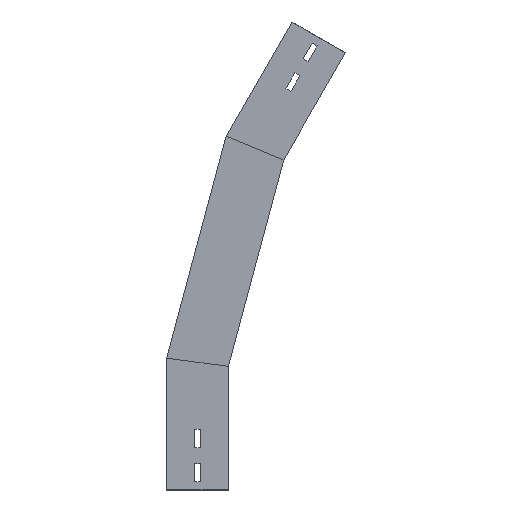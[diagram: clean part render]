
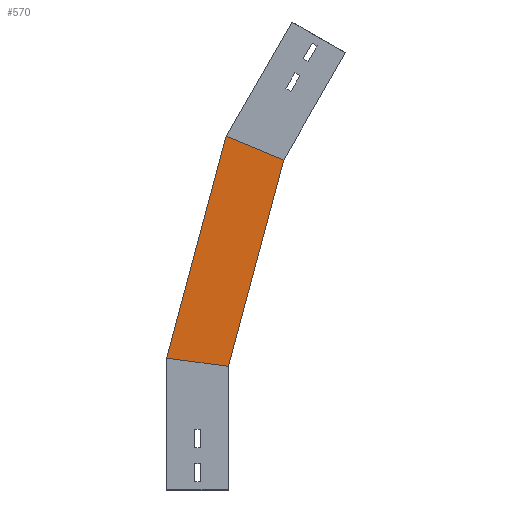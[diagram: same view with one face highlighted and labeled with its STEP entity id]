
A CAD part, left-side view. The second image highlights one B-rep face of the part: STEP entity #570.
In plain terms, the highlighted planar face has unit normal (-1, 0, 0) as drawn and (1, 0, 0) by its records, which use the part's own axes.
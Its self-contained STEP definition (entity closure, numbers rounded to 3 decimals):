
#53 = VERTEX_POINT ( 'NONE', #1097 ) ;
#66 = ORIENTED_EDGE ( 'NONE', *, *, #120, .T. ) ;
#71 = DIRECTION ( 'NONE',  ( 0., -0.259, 0.966 ) ) ;
#96 = DIRECTION ( 'NONE',  ( 1., 0., 0. ) ) ;
#120 = EDGE_CURVE ( 'NONE', #1113, #581, #903, .T. ) ;
#308 = CARTESIAN_POINT ( 'NONE',  ( 0., 2.855, 429.124 ) ) ;
#352 = CARTESIAN_POINT ( 'NONE',  ( 0., 75., 159.874 ) ) ;
#391 = ORIENTED_EDGE ( 'NONE', *, *, #498, .F. ) ;
#413 = DIRECTION ( 'NONE',  ( 0., -0.259, 0.966 ) ) ;
#469 = AXIS2_PLACEMENT_3D ( 'NONE', #1352, #96, #655 ) ;
#498 = EDGE_CURVE ( 'NONE', #1113, #1033, #1082, .T. ) ;
#556 = EDGE_CURVE ( 'NONE', #1033, #53, #1464, .T. ) ;
#570 = ADVANCED_FACE ( 'NONE', ( #1114 ), #791, .T. ) ;
#581 = VERTEX_POINT ( 'NONE', #308 ) ;
#623 = DIRECTION ( 'NONE',  ( 0., -0.991, -0.131 ) ) ;
#655 = DIRECTION ( 'NONE',  ( 0., 0., -1. ) ) ;
#708 = ORIENTED_EDGE ( 'NONE', *, *, #556, .F. ) ;
#734 = CARTESIAN_POINT ( 'NONE',  ( 0., -19.411, 147.444 ) ) ;
#737 = VECTOR ( 'NONE', #623, 1000. ) ;
#760 = EDGE_CURVE ( 'NONE', #581, #53, #1285, .T. ) ;
#791 = PLANE ( 'NONE',  #469 ) ;
#810 = CARTESIAN_POINT ( 'NONE',  ( 0., -99.589, 386.69 ) ) ;
#823 = ORIENTED_EDGE ( 'NONE', *, *, #760, .T. ) ;
#903 = LINE ( 'NONE', #1249, #1070 ) ;
#1033 = VERTEX_POINT ( 'NONE', #1385 ) ;
#1053 = VECTOR ( 'NONE', #1373, 1000. ) ;
#1070 = VECTOR ( 'NONE', #413, 1000. ) ;
#1082 = LINE ( 'NONE', #734, #737 ) ;
#1097 = CARTESIAN_POINT ( 'NONE',  ( 0., -67.034, 400.175 ) ) ;
#1113 = VERTEX_POINT ( 'NONE', #352 ) ;
#1114 = FACE_OUTER_BOUND ( 'NONE', #1261, .T. ) ;
#1195 = VECTOR ( 'NONE', #71, 1000. ) ;
#1249 = CARTESIAN_POINT ( 'NONE',  ( 0., 75.281, 158.824 ) ) ;
#1261 = EDGE_LOOP ( 'NONE', ( #66, #823, #708, #391 ) ) ;
#1285 = LINE ( 'NONE', #810, #1053 ) ;
#1339 = CARTESIAN_POINT ( 'NONE',  ( 0., 2.837, 139.412 ) ) ;
#1352 = CARTESIAN_POINT ( 'NONE',  ( 0., 2.837, 139.412 ) ) ;
#1373 = DIRECTION ( 'NONE',  ( 0., -0.924, -0.383 ) ) ;
#1385 = CARTESIAN_POINT ( 'NONE',  ( 0., 0., 150. ) ) ;
#1464 = LINE ( 'NONE', #1339, #1195 ) ;
